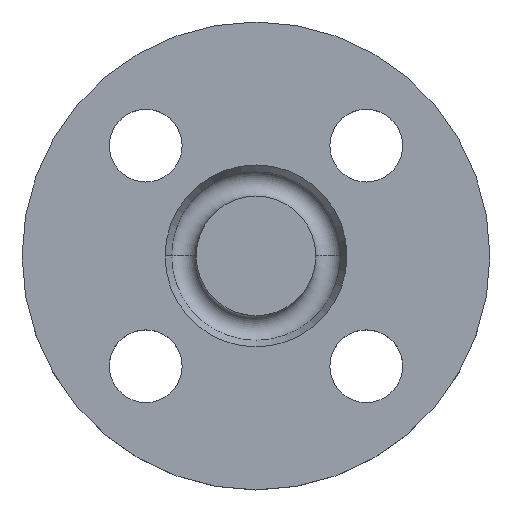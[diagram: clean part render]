
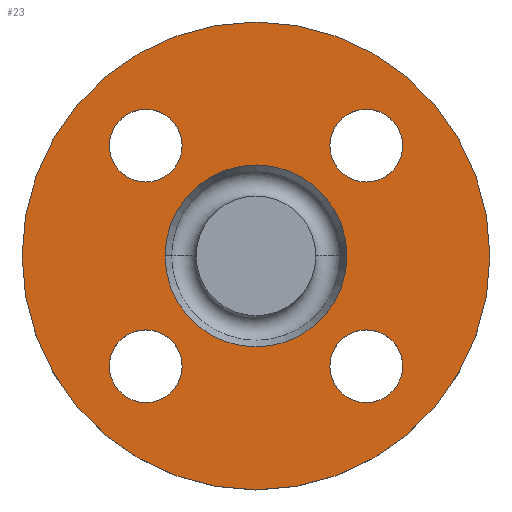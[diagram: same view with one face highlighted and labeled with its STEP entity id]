
A CAD part, top view. The second image highlights one B-rep face of the part: STEP entity #23.
In plain terms, the highlighted planar face has unit normal (0, 0, 1).
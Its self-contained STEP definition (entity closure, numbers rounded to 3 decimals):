
#2 = EDGE_CURVE ( 'NONE', #256, #349, #137, .T. ) ;
#4 = AXIS2_PLACEMENT_3D ( 'NONE', #85, #89, #90 ) ;
#5 = EDGE_CURVE ( 'NONE', #240, #249, #242, .T. ) ;
#20 = AXIS2_PLACEMENT_3D ( 'NONE', #617, #618, #128 ) ;
#21 = AXIS2_PLACEMENT_3D ( 'NONE', #211, #112, #213 ) ;
#23 = ADVANCED_FACE ( 'NONE', ( #467, #468, #469, #470, #472, #473 ), #474, .T. ) ;
#26 = CIRCLE ( 'NONE', #21, 7. ) ;
#42 = AXIS2_PLACEMENT_3D ( 'NONE', #152, #153, #154 ) ;
#46 = CIRCLE ( 'NONE', #47, 45. ) ;
#47 = AXIS2_PLACEMENT_3D ( 'NONE', #165, #167, #168 ) ;
#53 = CARTESIAN_POINT ( 'NONE',  ( 14.213, -21.213, -2. ) ) ;
#57 = AXIS2_PLACEMENT_3D ( 'NONE', #593, #594, #596 ) ;
#58 = CIRCLE ( 'NONE', #57, 7. ) ;
#63 = CARTESIAN_POINT ( 'NONE',  ( -45., 0., -2. ) ) ;
#72 = CIRCLE ( 'NONE', #82, 7. ) ;
#77 = CIRCLE ( 'NONE', #20, 7. ) ;
#82 = AXIS2_PLACEMENT_3D ( 'NONE', #564, #565, #566 ) ;
#84 = AXIS2_PLACEMENT_3D ( 'NONE', #475, #476, #477 ) ;
#85 = CARTESIAN_POINT ( 'NONE',  ( 0., 0., -2. ) ) ;
#89 = DIRECTION ( 'NONE',  ( 0., 0., -1. ) ) ;
#90 = DIRECTION ( 'NONE',  ( -1., 0., 0. ) ) ;
#112 = DIRECTION ( 'NONE',  ( 0., 0., -1. ) ) ;
#124 = AXIS2_PLACEMENT_3D ( 'NONE', #149, #150, #151 ) ;
#127 = CIRCLE ( 'NONE', #42, 7. ) ;
#128 = DIRECTION ( 'NONE',  ( 1., 0., 0. ) ) ;
#137 = CIRCLE ( 'NONE', #589, 7. ) ;
#142 = AXIS2_PLACEMENT_3D ( 'NONE', #448, #449, #450 ) ;
#148 = CARTESIAN_POINT ( 'NONE',  ( 28.213, -21.213, -2. ) ) ;
#149 = CARTESIAN_POINT ( 'NONE',  ( -21.213, 21.213, -2. ) ) ;
#150 = DIRECTION ( 'NONE',  ( 0., 0., -1. ) ) ;
#151 = DIRECTION ( 'NONE',  ( 1., 0., 0. ) ) ;
#152 = CARTESIAN_POINT ( 'NONE',  ( 21.213, 21.213, -2. ) ) ;
#153 = DIRECTION ( 'NONE',  ( 0., 0., -1. ) ) ;
#154 = DIRECTION ( 'NONE',  ( 1., 0., 0. ) ) ;
#165 = CARTESIAN_POINT ( 'NONE',  ( 0., 0., -2. ) ) ;
#167 = DIRECTION ( 'NONE',  ( 0., 0., -1. ) ) ;
#168 = DIRECTION ( 'NONE',  ( -1., 0., 0. ) ) ;
#181 = CIRCLE ( 'NONE', #4, 17.5 ) ;
#194 = CARTESIAN_POINT ( 'NONE',  ( -17.5, 0., -2. ) ) ;
#195 = CARTESIAN_POINT ( 'NONE',  ( -28.213, -21.213, -2. ) ) ;
#196 = CARTESIAN_POINT ( 'NONE',  ( -14.213, -21.213, -2. ) ) ;
#200 = CARTESIAN_POINT ( 'NONE',  ( -14.213, 21.213, -2. ) ) ;
#211 = CARTESIAN_POINT ( 'NONE',  ( -21.213, 21.213, -2. ) ) ;
#213 = DIRECTION ( 'NONE',  ( 1., 0., 0. ) ) ;
#222 = EDGE_CURVE ( 'NONE', #430, #433, #72, .T. ) ;
#228 = EDGE_CURVE ( 'NONE', #252, #429, #595, .T. ) ;
#232 = AXIS2_PLACEMENT_3D ( 'NONE', #288, #289, #290 ) ;
#236 = EDGE_CURVE ( 'NONE', #349, #256, #58, .T. ) ;
#240 = VERTEX_POINT ( 'NONE', #603 ) ;
#241 = EDGE_LOOP ( 'NONE', ( #345, #347 ) ) ;
#242 = CIRCLE ( 'NONE', #142, 7. ) ;
#244 = VERTEX_POINT ( 'NONE', #604 ) ;
#247 = VERTEX_POINT ( 'NONE', #605 ) ;
#249 = VERTEX_POINT ( 'NONE', #610 ) ;
#252 = VERTEX_POINT ( 'NONE', #616 ) ;
#254 = EDGE_CURVE ( 'NONE', #433, #430, #77, .T. ) ;
#256 = VERTEX_POINT ( 'NONE', #53 ) ;
#262 = VERTEX_POINT ( 'NONE', #63 ) ;
#288 = CARTESIAN_POINT ( 'NONE',  ( 0., 0., -2. ) ) ;
#289 = DIRECTION ( 'NONE',  ( 0., 0., -1. ) ) ;
#290 = DIRECTION ( 'NONE',  ( -1., 0., 0. ) ) ;
#343 = ORIENTED_EDGE ( 'NONE', *, *, #236, .T. ) ;
#344 = ORIENTED_EDGE ( 'NONE', *, *, #2, .T. ) ;
#345 = ORIENTED_EDGE ( 'NONE', *, *, #254, .T. ) ;
#347 = ORIENTED_EDGE ( 'NONE', *, *, #222, .T. ) ;
#348 = ORIENTED_EDGE ( 'NONE', *, *, #462, .T. ) ;
#349 = VERTEX_POINT ( 'NONE', #148 ) ;
#350 = ORIENTED_EDGE ( 'NONE', *, *, #361, .T. ) ;
#351 = ORIENTED_EDGE ( 'NONE', *, *, #5, .T. ) ;
#352 = ORIENTED_EDGE ( 'NONE', *, *, #368, .T. ) ;
#353 = ORIENTED_EDGE ( 'NONE', *, *, #228, .T. ) ;
#354 = ORIENTED_EDGE ( 'NONE', *, *, #613, .T. ) ;
#355 = ORIENTED_EDGE ( 'NONE', *, *, #418, .F. ) ;
#356 = ORIENTED_EDGE ( 'NONE', *, *, #543, .F. ) ;
#361 = EDGE_CURVE ( 'NONE', #244, #437, #519, .T. ) ;
#368 = EDGE_CURVE ( 'NONE', #249, #240, #127, .T. ) ;
#410 = AXIS2_PLACEMENT_3D ( 'NONE', #572, #587, #588 ) ;
#412 = EDGE_LOOP ( 'NONE', ( #355, #356 ) ) ;
#414 = EDGE_LOOP ( 'NONE', ( #351, #352 ) ) ;
#417 = EDGE_LOOP ( 'NONE', ( #353, #354 ) ) ;
#418 = EDGE_CURVE ( 'NONE', #247, #262, #46, .T. ) ;
#429 = VERTEX_POINT ( 'NONE', #194 ) ;
#430 = VERTEX_POINT ( 'NONE', #195 ) ;
#433 = VERTEX_POINT ( 'NONE', #196 ) ;
#437 = VERTEX_POINT ( 'NONE', #200 ) ;
#439 = EDGE_LOOP ( 'NONE', ( #343, #344 ) ) ;
#440 = EDGE_LOOP ( 'NONE', ( #348, #350 ) ) ;
#445 = CARTESIAN_POINT ( 'NONE',  ( 21.213, -21.213, -2. ) ) ;
#446 = DIRECTION ( 'NONE',  ( 0., 0., -1. ) ) ;
#447 = DIRECTION ( 'NONE',  ( 1., 0., 0. ) ) ;
#448 = CARTESIAN_POINT ( 'NONE',  ( 21.213, 21.213, -2. ) ) ;
#449 = DIRECTION ( 'NONE',  ( 0., 0., -1. ) ) ;
#450 = DIRECTION ( 'NONE',  ( 1., 0., 0. ) ) ;
#462 = EDGE_CURVE ( 'NONE', #437, #244, #26, .T. ) ;
#467 = FACE_BOUND ( 'NONE', #439, .T. ) ;
#468 = FACE_BOUND ( 'NONE', #241, .T. ) ;
#469 = FACE_BOUND ( 'NONE', #440, .T. ) ;
#470 = FACE_BOUND ( 'NONE', #414, .T. ) ;
#472 = FACE_BOUND ( 'NONE', #417, .T. ) ;
#473 = FACE_OUTER_BOUND ( 'NONE', #412, .T. ) ;
#474 = PLANE ( 'NONE',  #84 ) ;
#475 = CARTESIAN_POINT ( 'NONE',  ( 45., 0., -2. ) ) ;
#476 = DIRECTION ( 'NONE',  ( 0., 0., 1. ) ) ;
#477 = DIRECTION ( 'NONE',  ( 1., 0., 0. ) ) ;
#503 = CIRCLE ( 'NONE', #232, 45. ) ;
#519 = CIRCLE ( 'NONE', #124, 7. ) ;
#543 = EDGE_CURVE ( 'NONE', #262, #247, #503, .T. ) ;
#564 = CARTESIAN_POINT ( 'NONE',  ( -21.213, -21.213, -2. ) ) ;
#565 = DIRECTION ( 'NONE',  ( 0., 0., -1. ) ) ;
#566 = DIRECTION ( 'NONE',  ( 1., 0., 0. ) ) ;
#572 = CARTESIAN_POINT ( 'NONE',  ( 0., 0., -2. ) ) ;
#587 = DIRECTION ( 'NONE',  ( 0., 0., -1. ) ) ;
#588 = DIRECTION ( 'NONE',  ( -1., 0., 0. ) ) ;
#589 = AXIS2_PLACEMENT_3D ( 'NONE', #445, #446, #447 ) ;
#593 = CARTESIAN_POINT ( 'NONE',  ( 21.213, -21.213, -2. ) ) ;
#594 = DIRECTION ( 'NONE',  ( 0., 0., -1. ) ) ;
#595 = CIRCLE ( 'NONE', #410, 17.5 ) ;
#596 = DIRECTION ( 'NONE',  ( 1., 0., 0. ) ) ;
#603 = CARTESIAN_POINT ( 'NONE',  ( 28.213, 21.213, -2. ) ) ;
#604 = CARTESIAN_POINT ( 'NONE',  ( -28.213, 21.213, -2. ) ) ;
#605 = CARTESIAN_POINT ( 'NONE',  ( 45., 0., -2. ) ) ;
#610 = CARTESIAN_POINT ( 'NONE',  ( 14.213, 21.213, -2. ) ) ;
#613 = EDGE_CURVE ( 'NONE', #429, #252, #181, .T. ) ;
#616 = CARTESIAN_POINT ( 'NONE',  ( 17.5, 0., -2. ) ) ;
#617 = CARTESIAN_POINT ( 'NONE',  ( -21.213, -21.213, -2. ) ) ;
#618 = DIRECTION ( 'NONE',  ( 0., 0., -1. ) ) ;
